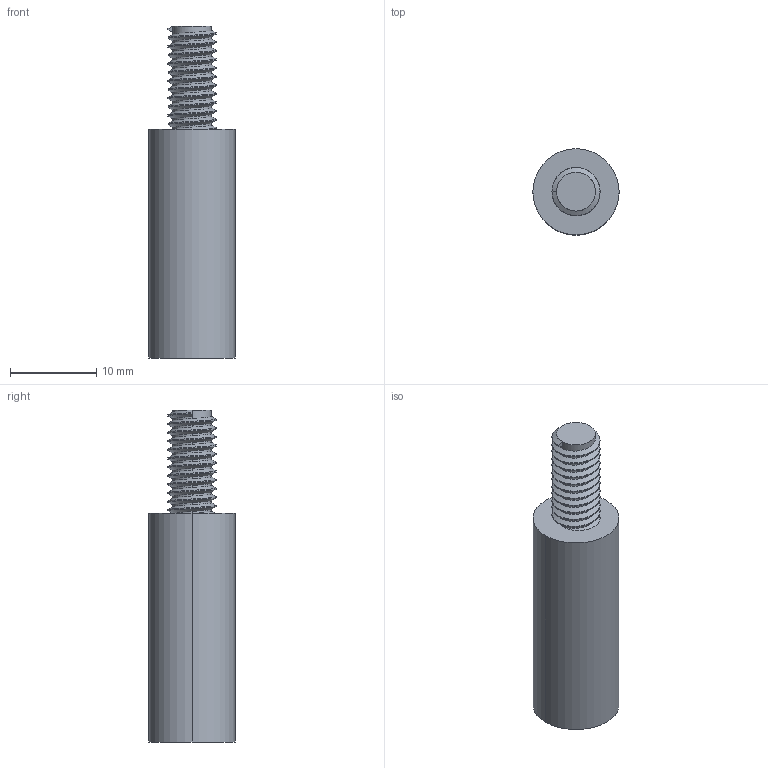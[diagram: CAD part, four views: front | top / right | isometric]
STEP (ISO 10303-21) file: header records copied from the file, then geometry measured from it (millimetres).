
FILE_DESCRIPTION (( 'STEP AP203' ), '1' );
FILE_NAME ('T010205.STEP', '2018-02-27T09:38:39', ( '' ), ( '' ), 'SwSTEP 2.0', 'SolidWorks 2016', '' );
FILE_SCHEMA (( 'CONFIG_CONTROL_DESIGN' ));
Length unit declared in the file: millimetre
Products named in the file (1): T010205
Bounding box: 10 x 10 x 38.5 mm (x, y, z)
Volume: 2227.8 mm3; surface area: 1357.8 mm2
Topology: 1 solids, 1 shells, 41 faces, 107 edges, 70 vertices
Faces by surface type: cylinder 27, plane 11, bspline 3
Entity records: 3088 total; most frequent: CARTESIAN_POINT 2159, ORIENTED_EDGE 214, DIRECTION 140, EDGE_CURVE 107, VERTEX_POINT 70, LINE 48, VECTOR 48, AXIS2_PLACEMENT_3D 46
